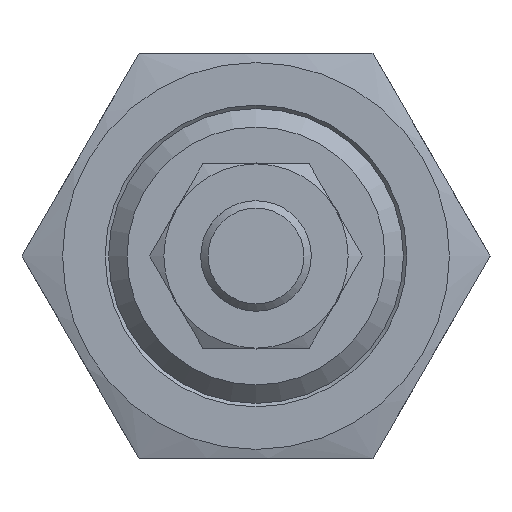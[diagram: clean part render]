
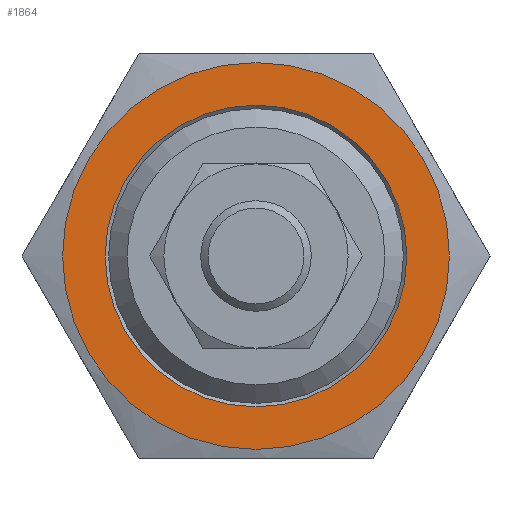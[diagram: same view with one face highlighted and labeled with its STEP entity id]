
A CAD part, front view. The second image highlights one B-rep face of the part: STEP entity #1864.
In plain terms, the highlighted planar face has unit normal (0, -1, 0) as drawn and (0, 0, 1) by its records, which use the part's own axes.
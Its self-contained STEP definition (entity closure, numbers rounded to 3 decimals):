
#322=PLANE('',#3055);
#735=ORIENTED_EDGE('',*,*,#981,.T.);
#736=ORIENTED_EDGE('',*,*,#982,.T.);
#981=EDGE_CURVE('',#1156,#1156,#1277,.F.);
#982=EDGE_CURVE('',#1157,#1157,#1278,.T.);
#1156=VERTEX_POINT('',#4238);
#1157=VERTEX_POINT('',#4240);
#1277=CIRCLE('',#3056,8.188);
#1278=CIRCLE('',#3057,10.5);
#1477=EDGE_LOOP('',(#735));
#1478=EDGE_LOOP('',(#736));
#1690=FACE_BOUND('',#1477,.T.);
#1691=FACE_BOUND('',#1478,.T.);
#1864=ADVANCED_FACE('',(#1690,#1691),#322,.T.);
#3055=AXIS2_PLACEMENT_3D('',#4236,#3613,#3614);
#3056=AXIS2_PLACEMENT_3D('',#4237,#3615,#3616);
#3057=AXIS2_PLACEMENT_3D('',#4239,#3617,#3618);
#3613=DIRECTION('',(0.,0.,1.));
#3614=DIRECTION('',(1.,0.,0.));
#3615=DIRECTION('',(0.,0.,1.));
#3616=DIRECTION('',(1.,0.,0.));
#3617=DIRECTION('',(0.,0.,1.));
#3618=DIRECTION('',(1.,0.,0.));
#4236=CARTESIAN_POINT('',(0.,0.,3.));
#4237=CARTESIAN_POINT('',(0.,0.,3.));
#4238=CARTESIAN_POINT('',(8.188,0.,3.));
#4239=CARTESIAN_POINT('',(0.,0.,3.));
#4240=CARTESIAN_POINT('',(10.5,0.,3.));
